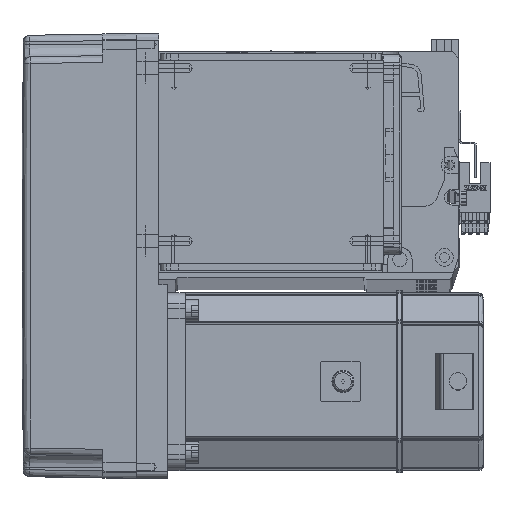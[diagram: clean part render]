
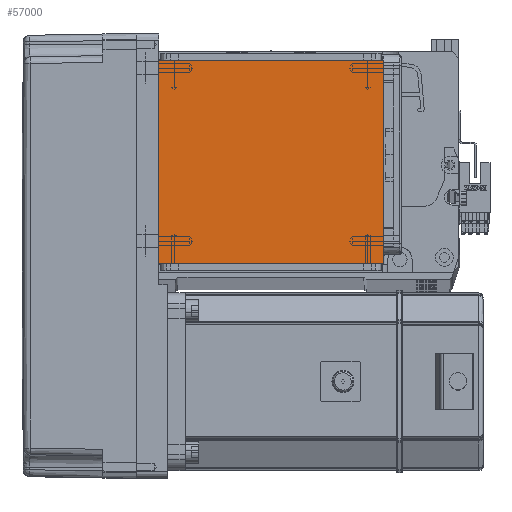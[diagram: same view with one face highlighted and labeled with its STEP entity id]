
A CAD part, top view. The second image highlights one B-rep face of the part: STEP entity #57000.
In plain terms, the highlighted planar face has unit normal (0, 0, 1).
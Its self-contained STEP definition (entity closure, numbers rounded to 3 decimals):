
#72 = CARTESIAN_POINT ( 'NONE',  ( 50.5, 20., 115. ) ) ;
#3520 = DIRECTION ( 'NONE',  ( 1., 0., 0. ) ) ;
#5232 = CARTESIAN_POINT ( 'NONE',  ( 50.5, 122., 115. ) ) ;
#5692 = VERTEX_POINT ( 'NONE', #41136 ) ;
#5901 = EDGE_CURVE ( 'NONE', #15751, #13965, #25152, .T. ) ;
#7532 = ORIENTED_EDGE ( 'NONE', *, *, #32880, .T. ) ;
#7786 = EDGE_LOOP ( 'NONE', ( #60266, #7532, #36360, #54715 ) ) ;
#13965 = VERTEX_POINT ( 'NONE', #17213 ) ;
#15751 = VERTEX_POINT ( 'NONE', #72 ) ;
#17213 = CARTESIAN_POINT ( 'NONE',  ( -50.5, 20., 115. ) ) ;
#17872 = VECTOR ( 'NONE', #3520, 1000. ) ;
#20365 = FACE_OUTER_BOUND ( 'NONE', #7786, .T. ) ;
#22851 = AXIS2_PLACEMENT_3D ( 'NONE', #51781, #31281, #36876 ) ;
#25152 = LINE ( 'NONE', #32780, #51059 ) ;
#25869 = LINE ( 'NONE', #51634, #55715 ) ;
#30133 = VECTOR ( 'NONE', #51202, 1000. ) ;
#30693 = EDGE_CURVE ( 'NONE', #15751, #5692, #31757, .T. ) ;
#31281 = DIRECTION ( 'NONE',  ( 0., 0., 1. ) ) ;
#31757 = LINE ( 'NONE', #5232, #30133 ) ;
#32780 = CARTESIAN_POINT ( 'NONE',  ( -70.004, 20., 115. ) ) ;
#32880 = EDGE_CURVE ( 'NONE', #50421, #13965, #25869, .T. ) ;
#34978 = EDGE_CURVE ( 'NONE', #50421, #5692, #45328, .T. ) ;
#36360 = ORIENTED_EDGE ( 'NONE', *, *, #5901, .F. ) ;
#36876 = DIRECTION ( 'NONE',  ( 1., 0., 0. ) ) ;
#37018 = CARTESIAN_POINT ( 'NONE',  ( -50.5, 111.5, 115. ) ) ;
#41136 = CARTESIAN_POINT ( 'NONE',  ( 50.5, 111.5, 115. ) ) ;
#45328 = LINE ( 'NONE', #64739, #17872 ) ;
#50421 = VERTEX_POINT ( 'NONE', #37018 ) ;
#51059 = VECTOR ( 'NONE', #58462, 1000. ) ;
#51202 = DIRECTION ( 'NONE',  ( 0., 1., 0. ) ) ;
#51634 = CARTESIAN_POINT ( 'NONE',  ( -50.5, 122., 115. ) ) ;
#51781 = CARTESIAN_POINT ( 'NONE',  ( 0., 0., 115. ) ) ;
#54715 = ORIENTED_EDGE ( 'NONE', *, *, #30693, .T. ) ;
#55715 = VECTOR ( 'NONE', #56779, 1000. ) ;
#56779 = DIRECTION ( 'NONE',  ( 0., -1., 0. ) ) ;
#56922 = PLANE ( 'NONE',  #22851 ) ;
#57000 = ADVANCED_FACE ( 'NONE', ( #20365 ), #56922, .T. ) ;
#58462 = DIRECTION ( 'NONE',  ( -1., 0., 0. ) ) ;
#60266 = ORIENTED_EDGE ( 'NONE', *, *, #34978, .F. ) ;
#64739 = CARTESIAN_POINT ( 'NONE',  ( -70.004, 111.5, 115. ) ) ;
